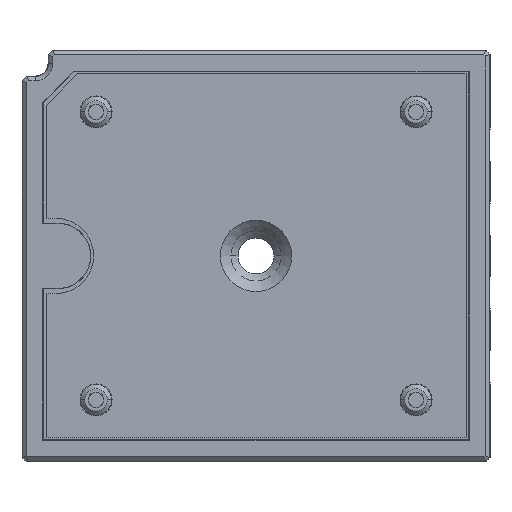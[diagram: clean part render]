
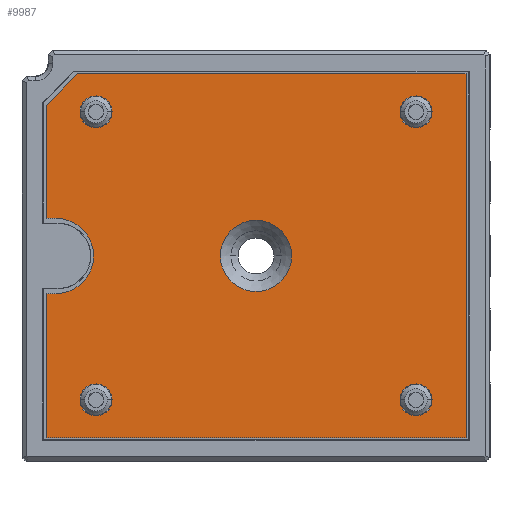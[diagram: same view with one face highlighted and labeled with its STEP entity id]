
A CAD part, top view. The second image highlights one B-rep face of the part: STEP entity #9987.
In plain terms, the highlighted planar face has unit normal (0, 0, 1).
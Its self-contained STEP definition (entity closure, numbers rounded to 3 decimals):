
#600=LINE('',#14944,#1163);
#601=LINE('',#14947,#1164);
#602=LINE('',#14949,#1165);
#603=LINE('',#14951,#1166);
#604=LINE('',#14953,#1167);
#605=LINE('',#14955,#1168);
#606=LINE('',#14957,#1169);
#607=LINE('',#14961,#1170);
#1163=VECTOR('',#11941,1000.);
#1164=VECTOR('',#11942,1000.);
#1165=VECTOR('',#11943,1000.);
#1166=VECTOR('',#11944,1000.);
#1167=VECTOR('',#11945,1000.);
#1168=VECTOR('',#11946,1000.);
#1169=VECTOR('',#11947,1000.);
#1170=VECTOR('',#11950,1000.);
#1726=PLANE('',#10696);
#2078=ORIENTED_EDGE('',*,*,#5218,.T.);
#2079=ORIENTED_EDGE('',*,*,#5219,.T.);
#2080=ORIENTED_EDGE('',*,*,#5220,.T.);
#2081=ORIENTED_EDGE('',*,*,#5221,.T.);
#2082=ORIENTED_EDGE('',*,*,#5222,.T.);
#2083=ORIENTED_EDGE('',*,*,#5223,.T.);
#2084=ORIENTED_EDGE('',*,*,#5224,.T.);
#2085=ORIENTED_EDGE('',*,*,#5225,.T.);
#2086=ORIENTED_EDGE('',*,*,#5226,.T.);
#2087=ORIENTED_EDGE('',*,*,#5206,.T.);
#2088=ORIENTED_EDGE('',*,*,#5213,.F.);
#2089=ORIENTED_EDGE('',*,*,#5217,.F.);
#2090=ORIENTED_EDGE('',*,*,#5215,.F.);
#2091=ORIENTED_EDGE('',*,*,#5211,.F.);
#5206=EDGE_CURVE('',#6776,#6776,#7738,.T.);
#5211=EDGE_CURVE('',#6781,#6781,#7743,.T.);
#5213=EDGE_CURVE('',#6783,#6783,#7745,.T.);
#5215=EDGE_CURVE('',#6785,#6785,#7747,.T.);
#5217=EDGE_CURVE('',#6787,#6787,#7749,.T.);
#5218=EDGE_CURVE('',#6788,#6789,#600,.T.);
#5219=EDGE_CURVE('',#6789,#6790,#601,.T.);
#5220=EDGE_CURVE('',#6790,#6791,#602,.T.);
#5221=EDGE_CURVE('',#6791,#6792,#603,.T.);
#5222=EDGE_CURVE('',#6792,#6793,#604,.T.);
#5223=EDGE_CURVE('',#6793,#6794,#605,.T.);
#5224=EDGE_CURVE('',#6794,#6795,#606,.T.);
#5225=EDGE_CURVE('',#6795,#6796,#7750,.T.);
#5226=EDGE_CURVE('',#6796,#6788,#607,.T.);
#6776=VERTEX_POINT('',#14915);
#6781=VERTEX_POINT('',#14927);
#6783=VERTEX_POINT('',#14932);
#6785=VERTEX_POINT('',#14937);
#6787=VERTEX_POINT('',#14942);
#6788=VERTEX_POINT('',#14945);
#6789=VERTEX_POINT('',#14946);
#6790=VERTEX_POINT('',#14948);
#6791=VERTEX_POINT('',#14950);
#6792=VERTEX_POINT('',#14952);
#6793=VERTEX_POINT('',#14954);
#6794=VERTEX_POINT('',#14956);
#6795=VERTEX_POINT('',#14958);
#6796=VERTEX_POINT('',#14960);
#7738=CIRCLE('',#10679,4.45);
#7743=CIRCLE('',#10686,2.);
#7745=CIRCLE('',#10689,2.);
#7747=CIRCLE('',#10692,2.);
#7749=CIRCLE('',#10695,2.);
#7750=CIRCLE('',#10697,4.7);
#8401=EDGE_LOOP('',(#2078,#2079,#2080,#2081,#2082,#2083,#2084,#2085,#2086));
#8402=EDGE_LOOP('',(#2087));
#8403=EDGE_LOOP('',(#2088));
#8404=EDGE_LOOP('',(#2089));
#8405=EDGE_LOOP('',(#2090));
#8406=EDGE_LOOP('',(#2091));
#9141=FACE_BOUND('',#8401,.T.);
#9142=FACE_BOUND('',#8402,.T.);
#9143=FACE_BOUND('',#8403,.T.);
#9144=FACE_BOUND('',#8404,.T.);
#9145=FACE_BOUND('',#8405,.T.);
#9146=FACE_BOUND('',#8406,.T.);
#9987=ADVANCED_FACE('',(#9141,#9142,#9143,#9144,#9145,#9146),#1726,.T.);
#10679=AXIS2_PLACEMENT_3D('',#14914,#11905,#11906);
#10686=AXIS2_PLACEMENT_3D('',#14926,#11919,#11920);
#10689=AXIS2_PLACEMENT_3D('',#14931,#11925,#11926);
#10692=AXIS2_PLACEMENT_3D('',#14936,#11931,#11932);
#10695=AXIS2_PLACEMENT_3D('',#14941,#11937,#11938);
#10696=AXIS2_PLACEMENT_3D('',#14943,#11939,#11940);
#10697=AXIS2_PLACEMENT_3D('',#14959,#11948,#11949);
#11905=DIRECTION('',(0.,0.,-1.));
#11906=DIRECTION('',(1.,0.,0.));
#11919=DIRECTION('',(0.,0.,1.));
#11920=DIRECTION('',(1.,0.,0.));
#11925=DIRECTION('',(0.,0.,1.));
#11926=DIRECTION('',(1.,0.,0.));
#11931=DIRECTION('',(0.,0.,1.));
#11932=DIRECTION('',(1.,0.,0.));
#11937=DIRECTION('',(0.,0.,1.));
#11938=DIRECTION('',(1.,0.,0.));
#11939=DIRECTION('',(0.,0.,1.));
#11940=DIRECTION('',(1.,0.,0.));
#11941=DIRECTION('',(0.,-1.,0.));
#11942=DIRECTION('',(1.,0.,0.));
#11943=DIRECTION('',(0.,1.,0.));
#11944=DIRECTION('',(-1.,0.,0.));
#11945=DIRECTION('',(-0.707,-0.707,0.));
#11946=DIRECTION('',(0.,-1.,0.));
#11947=DIRECTION('',(1.,0.,0.));
#11948=DIRECTION('',(0.,0.,-1.));
#11949=DIRECTION('',(1.,0.,0.));
#11950=DIRECTION('',(-1.,0.,0.));
#14914=CARTESIAN_POINT('',(0.,0.,2.));
#14915=CARTESIAN_POINT('',(4.45,0.,2.));
#14926=CARTESIAN_POINT('',(-20.,-18.,2.));
#14927=CARTESIAN_POINT('',(-18.,-18.,2.));
#14931=CARTESIAN_POINT('',(20.,-18.,2.));
#14932=CARTESIAN_POINT('',(22.,-18.,2.));
#14936=CARTESIAN_POINT('',(20.,18.,2.));
#14937=CARTESIAN_POINT('',(22.,18.,2.));
#14941=CARTESIAN_POINT('',(-20.,18.,2.));
#14942=CARTESIAN_POINT('',(-18.,18.,2.));
#14943=CARTESIAN_POINT('',(-25.,0.,2.));
#14944=CARTESIAN_POINT('',(-26.25,-22.75,2.));
#14945=CARTESIAN_POINT('',(-26.25,-4.7,2.));
#14946=CARTESIAN_POINT('',(-26.25,-22.75,2.));
#14947=CARTESIAN_POINT('',(-26.25,-22.75,2.));
#14948=CARTESIAN_POINT('',(26.25,-22.75,2.));
#14949=CARTESIAN_POINT('',(26.25,-22.75,2.));
#14950=CARTESIAN_POINT('',(26.25,22.75,2.));
#14951=CARTESIAN_POINT('',(-22.35,22.75,2.));
#14952=CARTESIAN_POINT('',(-22.35,22.75,2.));
#14953=CARTESIAN_POINT('',(-26.25,18.85,2.));
#14954=CARTESIAN_POINT('',(-26.25,18.85,2.));
#14955=CARTESIAN_POINT('',(-26.25,4.7,2.));
#14956=CARTESIAN_POINT('',(-26.25,4.7,2.));
#14957=CARTESIAN_POINT('',(-25.,4.7,2.));
#14958=CARTESIAN_POINT('',(-25.,4.7,2.));
#14959=CARTESIAN_POINT('',(-25.,0.,2.));
#14960=CARTESIAN_POINT('',(-25.,-4.7,2.));
#14961=CARTESIAN_POINT('',(-25.,-4.7,2.));
